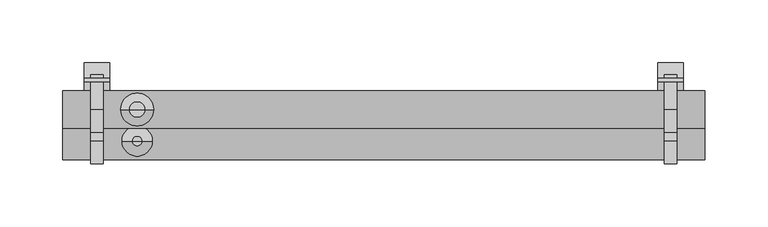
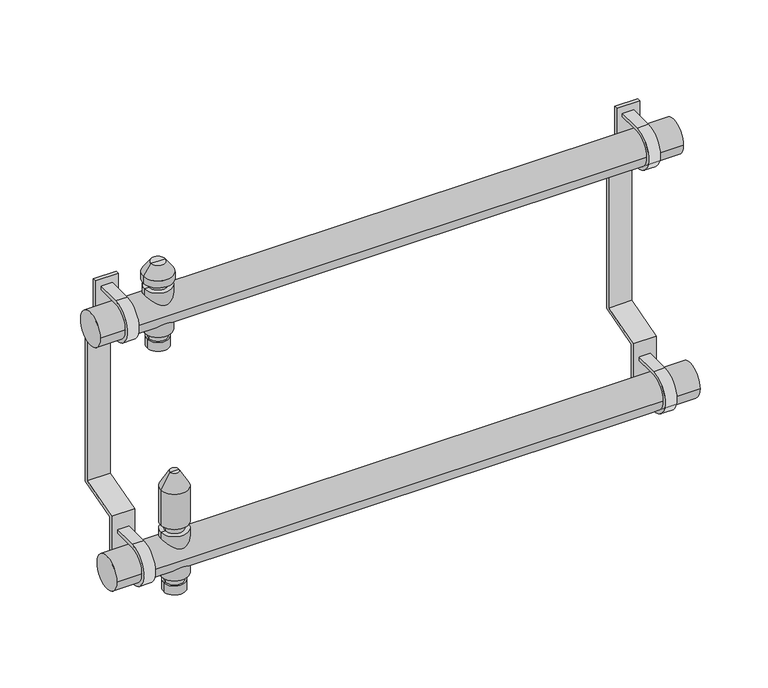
"""IFC4 building model written with IfcOpenShell, lengths in millimetres: valve geometry, PL AT_Manifold_FT-EV : 09 circuits."""

from ifc_helpers import new_model, si_unit, point, frame, frame_2d, origin, origin_2d, place, context, project, spatial, polyline, circle_curve, trimmed, segment, composite_curve, outline, extrude, source, transform, mapped, element, save
from ifc_brep_helpers import plane_surface, cylinder_surface, revolved_surface, advanced_brep


def valve_3285f891(model_context):
    return source(origin(), model_context, "Body", "SolidModel", [
        advanced_brep(
        [(32.5, 25.0, 174.88733), (51.5, 25.0, 174.88733), (42.0, 25.0, 174.88733), (32.5, 25.0, 182.9630354), (51.5, 25.0, 182.9630354), (34.0, 25.0, 182.9630354), (50.0, 25.0, 182.9630354), (34.0, 25.0, 189.669747), (50.0, 25.0, 189.669747), (30.0, 25.0, 189.669747), (54.0, 25.0, 189.669747), (30.0, 25.0, 230.330253), (54.0, 25.0, 230.330253), (34.0, 25.0, 230.330253), (50.0, 25.0, 230.330253), (34.0, 25.0, 236.0474786), (50.0, 25.0, 236.0474786), (29.0, 25.0, 236.0474786), (55.0, 25.0, 236.0474786), (29.0, 25.0, 242.337955), (55.0, 25.0, 242.337955), (35.6551779, 25.0, 251.842534), (48.3448221, 25.0, 251.842534), (42.0, 25.0, 251.842534)],
        [
            (0, 1, circle_curve(frame((42.0, 25.0, 174.88733), z_axis=(0.0, 0.0, -1.0), x_axis=(1.0, 0.0, 0.0)), 9.5)),
            (1, 2),
            (2, 0),
            (1, 0, circle_curve(frame((42.0, 25.0, 174.88733), z_axis=(0.0, 0.0, -1.0), x_axis=(1.0, 0.0, 0.0)), 9.5)),
            (3, 4, circle_curve(frame((42.0, 25.0, 182.9630354), z_axis=(0.0, 0.0, -1.0), x_axis=(1.0, 0.0, 0.0)), 9.5)),
            (4, 1),
            (0, 3),
            (4, 3, circle_curve(frame((42.0, 25.0, 182.9630354), z_axis=(0.0, 0.0, -1.0), x_axis=(1.0, 0.0, 0.0)), 9.5)),
            (5, 6, circle_curve(frame((42.0, 25.0, 182.9630354), z_axis=(0.0, 0.0, -1.0), x_axis=(1.0, 0.0, 0.0)), 8.0)),
            (6, 4),
            (3, 5),
            (6, 5, circle_curve(frame((42.0, 25.0, 182.9630354), z_axis=(0.0, 0.0, -1.0), x_axis=(1.0, 0.0, 0.0)), 8.0)),
            (7, 8, circle_curve(frame((42.0, 25.0, 189.669747), z_axis=(0.0, 0.0, -1.0), x_axis=(1.0, 0.0, 0.0)), 8.0)),
            (8, 6),
            (5, 7),
            (8, 7, circle_curve(frame((42.0, 25.0, 189.669747), z_axis=(0.0, 0.0, -1.0), x_axis=(1.0, 0.0, 0.0)), 8.0)),
            (9, 10, circle_curve(frame((42.0, 25.0, 189.669747), z_axis=(0.0, 0.0, -1.0), x_axis=(1.0, 0.0, 0.0)), 12.0)),
            (10, 8),
            (7, 9),
            (10, 9, circle_curve(frame((42.0, 25.0, 189.669747), z_axis=(0.0, 0.0, -1.0), x_axis=(1.0, 0.0, 0.0)), 12.0)),
            (11, 12, circle_curve(frame((42.0, 25.0, 230.330253), z_axis=(0.0, 0.0, -1.0), x_axis=(1.0, 0.0, 0.0)), 12.0)),
            (12, 10),
            (9, 11),
            (12, 11, circle_curve(frame((42.0, 25.0, 230.330253), z_axis=(0.0, 0.0, -1.0), x_axis=(1.0, 0.0, 0.0)), 12.0)),
            (13, 14, circle_curve(frame((42.0, 25.0, 230.330253), z_axis=(0.0, 0.0, -1.0), x_axis=(1.0, 0.0, 0.0)), 8.0)),
            (14, 12),
            (11, 13),
            (14, 13, circle_curve(frame((42.0, 25.0, 230.330253), z_axis=(0.0, 0.0, -1.0), x_axis=(1.0, 0.0, 0.0)), 8.0)),
            (15, 16, circle_curve(frame((42.0, 25.0, 236.0474786), z_axis=(0.0, 0.0, -1.0), x_axis=(1.0, 0.0, 0.0)), 8.0)),
            (16, 14),
            (13, 15),
            (16, 15, circle_curve(frame((42.0, 25.0, 236.0474786), z_axis=(0.0, 0.0, -1.0), x_axis=(1.0, 0.0, 0.0)), 8.0)),
            (17, 18, circle_curve(frame((42.0, 25.0, 236.0474786), z_axis=(0.0, 0.0, -1.0), x_axis=(1.0, 0.0, 0.0)), 13.0)),
            (18, 16),
            (15, 17),
            (18, 17, circle_curve(frame((42.0, 25.0, 236.0474786), z_axis=(0.0, 0.0, -1.0), x_axis=(1.0, 0.0, 0.0)), 13.0)),
            (19, 20, circle_curve(frame((42.0, 25.0, 242.337955), z_axis=(0.0, 0.0, -1.0), x_axis=(1.0, 0.0, 0.0)), 13.0)),
            (20, 18),
            (17, 19),
            (20, 19, circle_curve(frame((42.0, 25.0, 242.337955), z_axis=(0.0, 0.0, -1.0), x_axis=(1.0, 0.0, 0.0)), 13.0)),
            (21, 22, circle_curve(frame((42.0, 25.0, 251.842534), z_axis=(0.0, 0.0, -1.0), x_axis=(1.0, 0.0, 0.0)), 6.3448221)),
            (22, 20),
            (19, 21),
            (22, 21, circle_curve(frame((42.0, 25.0, 251.842534), z_axis=(0.0, 0.0, -1.0), x_axis=(1.0, 0.0, 0.0)), 6.3448221)),
            (23, 22),
            (21, 23),
        ],
        [
            plane_surface(frame((42.0, 25.0, 174.88733), z_axis=(0.0, 0.0, -1.0), x_axis=(1.0, 0.0, 0.0))),
            cylinder_surface(frame((42.0, 25.0, 247.7026565), z_axis=(0.0, 0.0, 1.0), x_axis=(1.0, 0.0, 0.0)), 9.5),
            plane_surface(frame((42.0, 25.0, 182.9630354), z_axis=(0.0, 0.0, 1.0), x_axis=(1.0, 0.0, 0.0))),
            cylinder_surface(frame((42.0, 25.0, 247.7026565), z_axis=(0.0, 0.0, 1.0), x_axis=(1.0, 0.0, 0.0)), 8.0),
            plane_surface(frame((42.0, 25.0, 189.669747), z_axis=(0.0, 0.0, -1.0), x_axis=(1.0, 0.0, 0.0))),
            cylinder_surface(frame((42.0, 25.0, 247.7026565), z_axis=(0.0, 0.0, 1.0), x_axis=(1.0, 0.0, 0.0)), 12.0),
            plane_surface(frame((42.0, 25.0, 230.330253), z_axis=(0.0, 0.0, 1.0), x_axis=(1.0, 0.0, 0.0))),
            plane_surface(frame((42.0, 25.0, 236.0474786), z_axis=(0.0, 0.0, -1.0), x_axis=(1.0, 0.0, 0.0))),
            cylinder_surface(frame((42.0, 25.0, 247.7026565), z_axis=(0.0, 0.0, 1.0), x_axis=(1.0, 0.0, 0.0)), 13.0),
            revolved_surface(polyline([(55.0, 25.0, 242.337955), (48.3448221, 25.0, 251.842534)]), (42.0, 25.0, 247.7026565), (0.0, 0.0, 1.0)),
            plane_surface(frame((42.0, 25.0, 251.842534), z_axis=(0.0, 0.0, 1.0), x_axis=(1.0, 0.0, 0.0))),
        ],
        [
            (0, [[1, 2, 3]]),
            (0, [[4, -3, -2]]),
            (1, [[5, 6, -1, 7]]),
            (1, [[8, -7, -4, -6]]),
            (2, [[9, 10, -5, 11]]),
            (2, [[12, -11, -8, -10]]),
            (3, [[13, 14, -9, 15]]),
            (3, [[16, -15, -12, -14]]),
            (4, [[17, 18, -13, 19]]),
            (4, [[20, -19, -16, -18]]),
            (5, [[21, 22, -17, 23]]),
            (5, [[24, -23, -20, -22]]),
            (6, [[25, 26, -21, 27]]),
            (6, [[28, -27, -24, -26]]),
            (3, [[29, 30, -25, 31]]),
            (3, [[32, -31, -28, -30]]),
            (7, [[33, 34, -29, 35]]),
            (7, [[36, -35, -32, -34]]),
            (8, [[37, 38, -33, 39]]),
            (8, [[40, -39, -36, -38]]),
            (9, [[41, 42, -37, 43]]),
            (9, [[44, -43, -40, -42]]),
            (10, [[45, -41, 46]]),
            (10, [[-46, -44, -45]]),
        ],
    ),
        advanced_brep(
        [(32.5, 0.0, -35.11267), (51.5, 0.0, -35.11267), (42.0, 0.0, -35.11267), (32.5, 0.0, -27.0369646), (51.5, 0.0, -27.0369646), (34.0, 0.0, -27.0369646), (50.0, 0.0, -27.0369646), (34.0, 0.0, -20.330253), (50.0, 0.0, -20.330253), (30.0, 0.0, -20.330253), (54.0, 0.0, -20.330253), (30.0, 0.0, 20.330253), (54.0, 0.0, 20.330253), (34.0, 0.0, 20.330253), (50.0, 0.0, 20.330253), (34.0, 0.0, 27.0474786), (50.0, 0.0, 27.0474786), (30.0, 0.0, 27.0474786), (54.0, 0.0, 27.0474786), (30.0, 0.0, 59.4084325), (54.0, 0.0, 59.4084325), (38.0, 0.0, 73.264839), (46.0, 0.0, 73.264839), (42.0, 0.0, 73.264839)],
        [
            (0, 1, circle_curve(frame((42.0, 0.0, -35.11267), z_axis=(0.0, 0.0, -1.0), x_axis=(1.0, 0.0, 0.0)), 9.5)),
            (1, 2),
            (2, 0),
            (1, 0, circle_curve(frame((42.0, 0.0, -35.11267), z_axis=(0.0, 0.0, -1.0), x_axis=(1.0, 0.0, 0.0)), 9.5)),
            (3, 4, circle_curve(frame((42.0, 0.0, -27.0369646), z_axis=(0.0, 0.0, -1.0), x_axis=(1.0, 0.0, 0.0)), 9.5)),
            (4, 1),
            (0, 3),
            (4, 3, circle_curve(frame((42.0, 0.0, -27.0369646), z_axis=(0.0, 0.0, -1.0), x_axis=(1.0, 0.0, 0.0)), 9.5)),
            (5, 6, circle_curve(frame((42.0, 0.0, -27.0369646), z_axis=(0.0, 0.0, -1.0), x_axis=(1.0, 0.0, 0.0)), 8.0)),
            (6, 4),
            (3, 5),
            (6, 5, circle_curve(frame((42.0, 0.0, -27.0369646), z_axis=(0.0, 0.0, -1.0), x_axis=(1.0, 0.0, 0.0)), 8.0)),
            (7, 8, circle_curve(frame((42.0, 0.0, -20.330253), z_axis=(0.0, 0.0, -1.0), x_axis=(1.0, 0.0, 0.0)), 8.0)),
            (8, 6),
            (5, 7),
            (8, 7, circle_curve(frame((42.0, 0.0, -20.330253), z_axis=(0.0, 0.0, -1.0), x_axis=(1.0, 0.0, 0.0)), 8.0)),
            (9, 10, circle_curve(frame((42.0, 0.0, -20.330253), z_axis=(0.0, 0.0, -1.0), x_axis=(1.0, 0.0, 0.0)), 12.0)),
            (10, 8),
            (7, 9),
            (10, 9, circle_curve(frame((42.0, 0.0, -20.330253), z_axis=(0.0, 0.0, -1.0), x_axis=(1.0, 0.0, 0.0)), 12.0)),
            (11, 12, circle_curve(frame((42.0, 0.0, 20.330253), z_axis=(0.0, 0.0, -1.0), x_axis=(1.0, 0.0, 0.0)), 12.0)),
            (12, 10),
            (9, 11),
            (12, 11, circle_curve(frame((42.0, 0.0, 20.330253), z_axis=(0.0, 0.0, -1.0), x_axis=(1.0, 0.0, 0.0)), 12.0)),
            (13, 14, circle_curve(frame((42.0, 0.0, 20.330253), z_axis=(0.0, 0.0, -1.0), x_axis=(1.0, 0.0, 0.0)), 8.0)),
            (14, 12),
            (11, 13),
            (14, 13, circle_curve(frame((42.0, 0.0, 20.330253), z_axis=(0.0, 0.0, -1.0), x_axis=(1.0, 0.0, 0.0)), 8.0)),
            (15, 16, circle_curve(frame((42.0, 0.0, 27.0474786), z_axis=(0.0, 0.0, -1.0), x_axis=(1.0, 0.0, 0.0)), 8.0)),
            (16, 14),
            (13, 15),
            (16, 15, circle_curve(frame((42.0, 0.0, 27.0474786), z_axis=(0.0, 0.0, -1.0), x_axis=(1.0, 0.0, 0.0)), 8.0)),
            (17, 18, circle_curve(frame((42.0, 0.0, 27.0474786), z_axis=(0.0, 0.0, -1.0), x_axis=(1.0, 0.0, 0.0)), 12.0)),
            (18, 16),
            (15, 17),
            (18, 17, circle_curve(frame((42.0, 0.0, 27.0474786), z_axis=(0.0, 0.0, -1.0), x_axis=(1.0, 0.0, 0.0)), 12.0)),
            (19, 20, circle_curve(frame((42.0, 0.0, 59.4084325), z_axis=(0.0, 0.0, -1.0), x_axis=(1.0, 0.0, 0.0)), 12.0)),
            (20, 18),
            (17, 19),
            (20, 19, circle_curve(frame((42.0, 0.0, 59.4084325), z_axis=(0.0, 0.0, -1.0), x_axis=(1.0, 0.0, 0.0)), 12.0)),
            (21, 22, circle_curve(frame((42.0, 0.0, 73.264839), z_axis=(0.0, 0.0, -1.0), x_axis=(1.0, 0.0, 0.0)), 4.0)),
            (22, 20),
            (19, 21),
            (22, 21, circle_curve(frame((42.0, 0.0, 73.264839), z_axis=(0.0, 0.0, -1.0), x_axis=(1.0, 0.0, 0.0)), 4.0)),
            (23, 22),
            (21, 23),
        ],
        [
            plane_surface(frame((42.0, 0.0, -35.11267), z_axis=(0.0, 0.0, -1.0), x_axis=(1.0, 0.0, 0.0))),
            cylinder_surface(frame((42.0, 0.0, 58.264839), z_axis=(0.0, 0.0, 1.0), x_axis=(1.0, 0.0, 0.0)), 9.5),
            plane_surface(frame((42.0, 0.0, -27.0369646), z_axis=(0.0, 0.0, 1.0), x_axis=(1.0, 0.0, 0.0))),
            cylinder_surface(frame((42.0, 0.0, 58.264839), z_axis=(0.0, 0.0, 1.0), x_axis=(1.0, 0.0, 0.0)), 8.0),
            plane_surface(frame((42.0, 0.0, -20.330253), z_axis=(0.0, 0.0, -1.0), x_axis=(1.0, 0.0, 0.0))),
            cylinder_surface(frame((42.0, 0.0, 58.264839), z_axis=(0.0, 0.0, 1.0), x_axis=(1.0, 0.0, 0.0)), 12.0),
            plane_surface(frame((42.0, 0.0, 20.330253), z_axis=(0.0, 0.0, 1.0), x_axis=(1.0, 0.0, 0.0))),
            plane_surface(frame((42.0, 0.0, 27.0474786), z_axis=(0.0, 0.0, -1.0), x_axis=(1.0, 0.0, 0.0))),
            revolved_surface(polyline([(54.0, 0.0, 59.4084325), (46.0, 0.0, 73.264839)]), (42.0, 0.0, 58.264839), (0.0, 0.0, 1.0)),
            plane_surface(frame((42.0, 0.0, 73.264839), z_axis=(0.0, 0.0, 1.0), x_axis=(1.0, 0.0, 0.0))),
        ],
        [
            (0, [[1, 2, 3]]),
            (0, [[4, -3, -2]]),
            (1, [[5, 6, -1, 7]]),
            (1, [[8, -7, -4, -6]]),
            (2, [[9, 10, -5, 11]]),
            (2, [[12, -11, -8, -10]]),
            (3, [[13, 14, -9, 15]]),
            (3, [[16, -15, -12, -14]]),
            (4, [[17, 18, -13, 19]]),
            (4, [[20, -19, -16, -18]]),
            (5, [[21, 22, -17, 23]]),
            (5, [[24, -23, -20, -22]]),
            (6, [[25, 26, -21, 27]]),
            (6, [[28, -27, -24, -26]]),
            (3, [[29, 30, -25, 31]]),
            (3, [[32, -31, -28, -30]]),
            (7, [[33, 34, -29, 35]]),
            (7, [[36, -35, -32, -34]]),
            (5, [[37, 38, -33, 39]]),
            (5, [[40, -39, -36, -38]]),
            (8, [[41, 42, -37, 43]]),
            (8, [[44, -43, -40, -42]]),
            (9, [[45, -41, 46]]),
            (9, [[-46, -44, -45]]),
        ],
    ),
        extrude(outline(composite_curve([segment(trimmed(circle_curve(origin_2d(), 15.0), [point((0.0, 15.0))], [point((0.0, -15.0))], True, "CARTESIAN"), True, "CONTINUOUS"), segment(polyline([(0.0, -15.0), (27.6751284, -15.0), (27.6751284, -18.0), (0.0, -18.0)]), True, "CONTINUOUS"), segment(trimmed(circle_curve(origin_2d(), 18.0), [point((0.0, -18.0))], [point((0.0, 18.0))], False, "CARTESIAN"), True, "CONTINUOUS"), segment(polyline([(0.0, 18.0), (27.6751284, 18.0), (27.6751284, 15.0), (0.0, 15.0)]), True, "CONTINUOUS")], self_intersect=False)), frame((461.0, 0.0, 0.0), z_axis=(1.0, 0.0, 0.0), x_axis=(0.0, 1.0, 0.0)), (0.0, 0.0, 1.0), 10.0),
        extrude(outline(composite_curve([segment(trimmed(circle_curve(frame_2d((25.0, 210.0)), 15.0), [point((25.0, 225.0))], [point((25.0, 195.0))], True, "CARTESIAN"), True, "CONTINUOUS"), segment(polyline([(25.0, 195.0), (52.6751284, 195.0), (52.6751284, 192.0), (25.0, 192.0)]), True, "CONTINUOUS"), segment(trimmed(circle_curve(frame_2d((25.0, 210.0)), 18.0), [point((25.0, 192.0))], [point((25.0, 228.0))], False, "CARTESIAN"), True, "CONTINUOUS"), segment(polyline([(25.0, 228.0), (52.6751284, 228.0), (52.6751284, 225.0), (25.0, 225.0)]), True, "CONTINUOUS")], self_intersect=False)), frame((461.0, 0.0, 0.0), z_axis=(1.0, 0.0, 0.0), x_axis=(0.0, 1.0, 0.0)), (0.0, 0.0, 1.0), 10.0),
        extrude(outline(polyline([(62.0, 182.8840762), (62.0, 40.6095793), (25.0, 30.0), (25.0, -30.0), (22.0, -30.0), (22.0, 32.2606622), (59.0, 42.8702414), (59.0, 180.3667773), (47.0, 182.4827011), (47.0, 235.0), (50.0, 235.0), (50.0, 185.0), (62.0, 182.8840762)])), frame((456.0, 0.0, 0.0), z_axis=(1.0, 0.0, 0.0), x_axis=(0.0, 1.0, 0.0)), (0.0, 0.0, 1.0), 20.0),
        extrude(outline(composite_curve([segment(trimmed(circle_curve(origin_2d(), 15.0), [point((0.0, 15.0))], [point((0.0, -15.0))], True, "CARTESIAN"), True, "CONTINUOUS"), segment(polyline([(0.0, -15.0), (27.6751284, -15.0), (27.6751284, -18.0), (0.0, -18.0)]), True, "CONTINUOUS"), segment(trimmed(circle_curve(origin_2d(), 18.0), [point((0.0, -18.0))], [point((0.0, 18.0))], False, "CARTESIAN"), True, "CONTINUOUS"), segment(polyline([(0.0, 18.0), (27.6751284, 18.0), (27.6751284, 15.0), (0.0, 15.0)]), True, "CONTINUOUS")], self_intersect=False)), frame((5.0, 0.0, 0.0), z_axis=(1.0, 0.0, 0.0), x_axis=(0.0, 1.0, 0.0)), (0.0, 0.0, 1.0), 10.0),
        extrude(outline(composite_curve([segment(trimmed(circle_curve(frame_2d((25.0, 210.0)), 15.0), [point((25.0, 225.0))], [point((25.0, 195.0))], True, "CARTESIAN"), True, "CONTINUOUS"), segment(polyline([(25.0, 195.0), (52.6751284, 195.0), (52.6751284, 192.0), (25.0, 192.0)]), True, "CONTINUOUS"), segment(trimmed(circle_curve(frame_2d((25.0, 210.0)), 18.0), [point((25.0, 192.0))], [point((25.0, 228.0))], False, "CARTESIAN"), True, "CONTINUOUS"), segment(polyline([(25.0, 228.0), (52.6751284, 228.0), (52.6751284, 225.0), (25.0, 225.0)]), True, "CONTINUOUS")], self_intersect=False)), frame((5.0, 0.0, 0.0), z_axis=(1.0, 0.0, 0.0), x_axis=(0.0, 1.0, 0.0)), (0.0, 0.0, 1.0), 10.0),
        extrude(outline(polyline([(62.0, 182.8840762), (62.0, 40.6095793), (25.0, 30.0), (25.0, -30.0), (22.0, -30.0), (22.0, 32.2606622), (59.0, 42.8702414), (59.0, 180.3667773), (47.0, 182.4827011), (47.0, 235.0), (50.0, 235.0), (50.0, 185.0), (62.0, 182.8840762)])), frame((0.0, 0.0, 0.0), z_axis=(1.0, 0.0, 0.0), x_axis=(0.0, 1.0, 0.0)), (0.0, 0.0, 1.0), 20.0),
        extrude(outline(composite_curve([segment(trimmed(circle_curve(origin_2d(), 15.0), [point((15.0, 0.0))], [point((-15.0, 0.0))], False, "CARTESIAN"), True, "CONTINUOUS"), segment(trimmed(circle_curve(origin_2d(), 15.0), [point((-15.0, 0.0))], [point((15.0, 0.0))], False, "CARTESIAN"), True, "CONTINUOUS")], self_intersect=False)), frame((-17.0, 0.0, 0.0), z_axis=(1.0, 0.0, 0.0), x_axis=(0.0, 1.0, 0.0)), (0.0, 0.0, 1.0), 510.0),
        extrude(outline(composite_curve([segment(trimmed(circle_curve(frame_2d((25.0, 210.0)), 15.0), [point((40.0, 210.0))], [point((10.0, 210.0))], False, "CARTESIAN"), True, "CONTINUOUS"), segment(trimmed(circle_curve(frame_2d((25.0, 210.0)), 15.0), [point((10.0, 210.0))], [point((40.0, 210.0))], False, "CARTESIAN"), True, "CONTINUOUS")], self_intersect=False)), frame((-17.0, 0.0, 0.0), z_axis=(1.0, 0.0, 0.0), x_axis=(0.0, 1.0, 0.0)), (0.0, 0.0, 1.0), 510.0),
    ])


if __name__ == "__main__":
    model = new_model("IFC4")
    model_context = context("Model", 3, world=origin())
    ifc_project = project(units=[si_unit("LENGTHUNIT", "METRE", prefix="MILLI")], contexts=[model_context])
    site = spatial("IfcSite", under=ifc_project)
    building = spatial("IfcBuilding", under=site)
    placement = place(None, origin())
    valve_shape = valve_3285f891(model_context)
    element("IfcValve", 1, ObjectType="PL AT_Manifold_FT-EV : 09 circuits", at=placement, inside=building, context=model_context, shape_type="MappedRepresentation", body=[
        mapped(valve_shape, transform((0.0, 0.0, 0.0), x_axis=(1.0, 0.0, 0.0), y_axis=(0.0, 1.0, 0.0), z_axis=(0.0, 0.0, 1.0))),
    ])
    save(model, "model.ifc")
